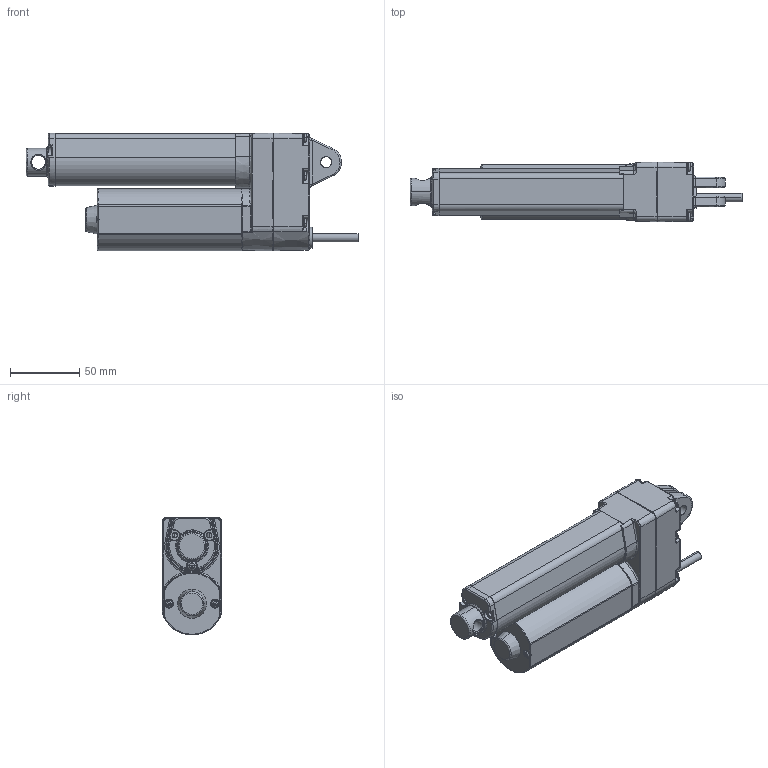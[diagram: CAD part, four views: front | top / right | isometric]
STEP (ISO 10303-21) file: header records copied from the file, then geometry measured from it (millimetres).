
FILE_DESCRIPTION (( 'STEP AP203' ), '1' );
FILE_NAME ('MK32-C10.STEP', '2022-07-26T08:24:38', ( '' ), ( '' ), 'SwSTEP 2.0', 'SolidWorks 2020', '' );
FILE_SCHEMA (( 'CONFIG_CONTROL_DESIGN' ));
Length unit declared in the file: millimetre
Products named in the file (3): C1_; MK32-C10; C_0
Assembly tree (2 placements, depth 2):
  MK32-C10
    C_0
    C1_
Bounding box: 239.7 x 42.99 x 84.99 mm (x, y, z)
Volume: 21349.4 mm3; surface area: 85202.3 mm2
Topology: 1 solids, 23 shells, 748 faces, 2373 edges, 1636 vertices
Faces by surface type: plane 274, cylinder 225, bspline 181, cone 68
Entity records: 38896 total; most frequent: CARTESIAN_POINT 19786, ORIENTED_EDGE 4124, DIRECTION 3350, EDGE_CURVE 2365, VERTEX_POINT 1636, AXIS2_PLACEMENT_3D 1204, LINE 942, VECTOR 942
